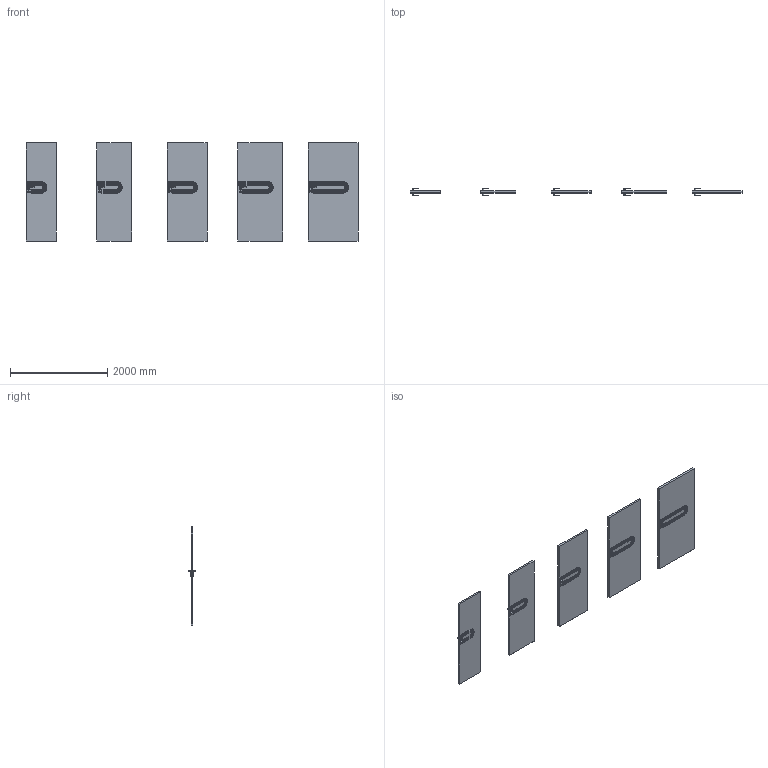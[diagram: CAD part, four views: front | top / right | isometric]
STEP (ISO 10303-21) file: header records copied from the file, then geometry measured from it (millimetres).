
FILE_DESCRIPTION(/* description */ (''),/* implementation_level */ '2;1');
FILE_NAME(/* name */ '049846_A_2-Skrzydło ART DECO model 4_ polska norma _PN__ bezprzylgowe..stp',/* time_stamp */ '2024-09-02T14:12:05+02:00',/* author */ (''),/* organization */ (''),/* preprocessor_version */ 'ST-DEVELOPER v16',/* originating_system */ 'SIEMENS PLM Software NX 11.0',/* authorisation */ '');
FILE_SCHEMA (('AUTOMOTIVE_DESIGN { 1 0 10303 214 3 1 1 1 }'));
Length unit declared in the file: millimetre
Products named in the file (1): bkni1684CEC86fpb
Bounding box: 6818 x 153.13 x 2017 mm (x, y, z)
Volume: 324307410.6 mm3; surface area: 17899168.8 mm2
Topology: 25 solids, 25 shells, 1540 faces, 3670 edges, 2080 vertices
Faces by surface type: plane 510, cylinder 460, bspline 190, torus 150, sphere 140, cone 90
Entity records: 49139 total; most frequent: CARTESIAN_POINT 14621, DIRECTION 7372, ORIENTED_EDGE 7060, EDGE_CURVE 3530, AXIS2_PLACEMENT_3D 2791, VERTEX_POINT 2080, LINE 1790, VECTOR 1790
